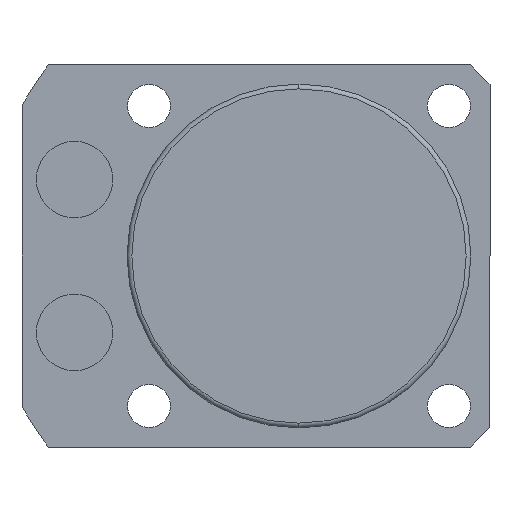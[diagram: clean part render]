
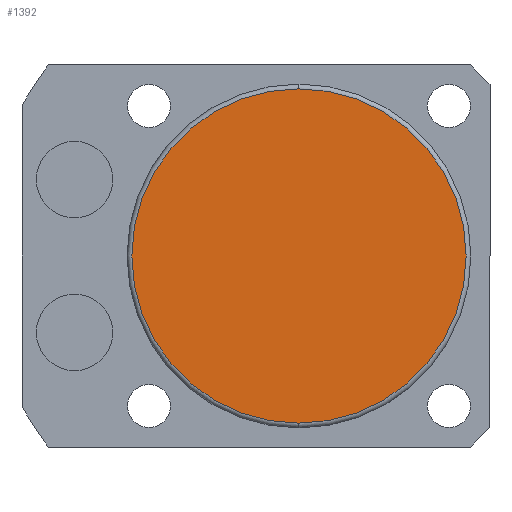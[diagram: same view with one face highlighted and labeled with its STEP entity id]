
A CAD part, front view. The second image highlights one B-rep face of the part: STEP entity #1392.
In plain terms, the highlighted planar face has unit normal (0, -1, 0).
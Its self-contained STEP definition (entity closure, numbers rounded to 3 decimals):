
#95 = DIRECTION ( 'NONE',  ( 0., -1., 0. ) ) ;
#234 = CARTESIAN_POINT ( 'NONE',  ( 0., -90.5, 17.5 ) ) ;
#298 = ORIENTED_EDGE ( 'NONE', *, *, #1498, .T. ) ;
#303 = CARTESIAN_POINT ( 'NONE',  ( 0., -90.5, 0. ) ) ;
#511 = AXIS2_PLACEMENT_3D ( 'NONE', #968, #2274, #1345 ) ;
#557 = AXIS2_PLACEMENT_3D ( 'NONE', #303, #899, #1101 ) ;
#899 = DIRECTION ( 'NONE',  ( 0., -1., 0. ) ) ;
#968 = CARTESIAN_POINT ( 'NONE',  ( 0., -90.5, 0. ) ) ;
#1022 = CIRCLE ( 'NONE', #511, 17.5 ) ;
#1101 = DIRECTION ( 'NONE',  ( 0., 0., -1. ) ) ;
#1172 = VERTEX_POINT ( 'NONE', #2292 ) ;
#1282 = EDGE_CURVE ( 'NONE', #2056, #1172, #1022, .T. ) ;
#1345 = DIRECTION ( 'NONE',  ( 0., 0., -1. ) ) ;
#1388 = EDGE_LOOP ( 'NONE', ( #298, #1707 ) ) ;
#1392 = ADVANCED_FACE ( 'NONE', ( #1491 ), #1784, .T. ) ;
#1435 = DIRECTION ( 'NONE',  ( 0., 0., -1. ) ) ;
#1491 = FACE_OUTER_BOUND ( 'NONE', #1388, .T. ) ;
#1498 = EDGE_CURVE ( 'NONE', #1172, #2056, #2168, .T. ) ;
#1707 = ORIENTED_EDGE ( 'NONE', *, *, #1282, .T. ) ;
#1784 = PLANE ( 'NONE',  #2131 ) ;
#2056 = VERTEX_POINT ( 'NONE', #234 ) ;
#2131 = AXIS2_PLACEMENT_3D ( 'NONE', #2159, #95, #1435 ) ;
#2159 = CARTESIAN_POINT ( 'NONE',  ( 0., -90.5, 0. ) ) ;
#2168 = CIRCLE ( 'NONE', #557, 17.5 ) ;
#2274 = DIRECTION ( 'NONE',  ( 0., -1., 0. ) ) ;
#2292 = CARTESIAN_POINT ( 'NONE',  ( 0., -90.5, -17.5 ) ) ;
